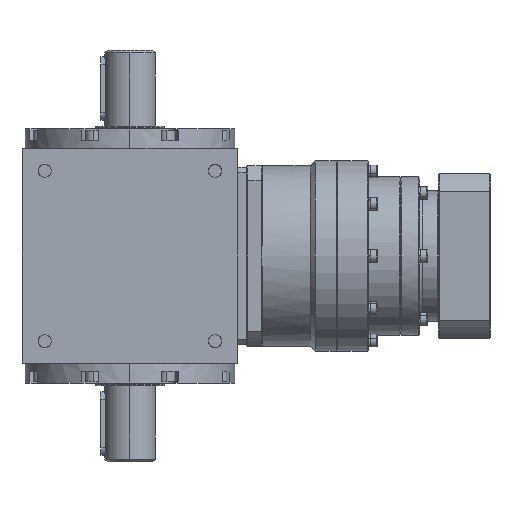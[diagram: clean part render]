
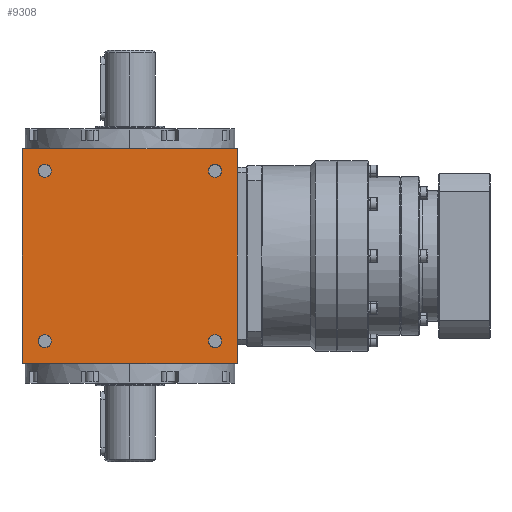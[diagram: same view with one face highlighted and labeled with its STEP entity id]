
A CAD part, left-side view. The second image highlights one B-rep face of the part: STEP entity #9308.
In plain terms, the highlighted planar face has unit normal (-1, 0, 0).
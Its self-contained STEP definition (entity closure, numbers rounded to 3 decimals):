
#465 = EDGE_CURVE ( 'NONE', #48135, #32038, #18563, .T. ) ;
#545 = EDGE_LOOP ( 'NONE', ( #1643, #24327 ) ) ;
#1643 = ORIENTED_EDGE ( 'NONE', *, *, #34196, .T. ) ;
#1875 = CARTESIAN_POINT ( 'NONE',  ( -85., 67., 61.9 ) ) ;
#3090 = DIRECTION ( 'NONE',  ( 0., 0., 1. ) ) ;
#3372 = LINE ( 'NONE', #45760, #16991 ) ;
#3641 = FACE_BOUND ( 'NONE', #21216, .T. ) ;
#4065 = CIRCLE ( 'NONE', #37555, 5.1 ) ;
#4308 = AXIS2_PLACEMENT_3D ( 'NONE', #9619, #16704, #12769 ) ;
#5265 = CARTESIAN_POINT ( 'NONE',  ( -85., -67., 72.1 ) ) ;
#5530 = VECTOR ( 'NONE', #14328, 1000. ) ;
#6942 = EDGE_CURVE ( 'NONE', #12817, #26942, #45713, .T. ) ;
#7052 = FACE_BOUND ( 'NONE', #545, .T. ) ;
#7145 = VERTEX_POINT ( 'NONE', #39131 ) ;
#7190 = CARTESIAN_POINT ( 'NONE',  ( -85., 67., 72.1 ) ) ;
#7510 = VERTEX_POINT ( 'NONE', #27154 ) ;
#8971 = VECTOR ( 'NONE', #34373, 1000. ) ;
#9308 = ADVANCED_FACE ( 'NONE', ( #40444, #25371, #7052, #21936, #3641 ), #36791, .T. ) ;
#9619 = CARTESIAN_POINT ( 'NONE',  ( -85., -67., 67. ) ) ;
#10342 = AXIS2_PLACEMENT_3D ( 'NONE', #15931, #26665, #12012 ) ;
#10415 = EDGE_CURVE ( 'NONE', #45732, #7145, #46692, .T. ) ;
#11060 = VECTOR ( 'NONE', #29466, 1000. ) ;
#11374 = CARTESIAN_POINT ( 'NONE',  ( -85., -84.5, -84.5 ) ) ;
#11806 = CARTESIAN_POINT ( 'NONE',  ( -85., 67., -72.1 ) ) ;
#12012 = DIRECTION ( 'NONE',  ( 0., 0., 1. ) ) ;
#12095 = EDGE_CURVE ( 'NONE', #28531, #23396, #23325, .T. ) ;
#12769 = DIRECTION ( 'NONE',  ( 0., 0., 1. ) ) ;
#12817 = VERTEX_POINT ( 'NONE', #7190 ) ;
#13135 = CARTESIAN_POINT ( 'NONE',  ( -85., -67., 61.9 ) ) ;
#14328 = DIRECTION ( 'NONE',  ( 0., 0., -1. ) ) ;
#14441 = CIRCLE ( 'NONE', #4308, 5.1 ) ;
#15244 = ORIENTED_EDGE ( 'NONE', *, *, #43886, .T. ) ;
#15337 = CARTESIAN_POINT ( 'NONE',  ( -85., 85., -84.5 ) ) ;
#15562 = ORIENTED_EDGE ( 'NONE', *, *, #31673, .T. ) ;
#15931 = CARTESIAN_POINT ( 'NONE',  ( -85., 67., 67. ) ) ;
#16704 = DIRECTION ( 'NONE',  ( 1., 0., 0. ) ) ;
#16991 = VECTOR ( 'NONE', #37989, 1000. ) ;
#18354 = DIRECTION ( 'NONE',  ( 1., 0., 0. ) ) ;
#18365 = CARTESIAN_POINT ( 'NONE',  ( -85., 84.5, 84.5 ) ) ;
#18473 = CARTESIAN_POINT ( 'NONE',  ( -85., 67., 67. ) ) ;
#18563 = LINE ( 'NONE', #41430, #8971 ) ;
#20071 = AXIS2_PLACEMENT_3D ( 'NONE', #18473, #29425, #37690 ) ;
#20212 = ORIENTED_EDGE ( 'NONE', *, *, #24696, .T. ) ;
#20646 = VERTEX_POINT ( 'NONE', #45647 ) ;
#21216 = EDGE_LOOP ( 'NONE', ( #36581, #15244 ) ) ;
#21410 = CARTESIAN_POINT ( 'NONE',  ( -85., -67., -67. ) ) ;
#21794 = AXIS2_PLACEMENT_3D ( 'NONE', #46868, #25437, #24732 ) ;
#21936 = FACE_BOUND ( 'NONE', #33593, .T. ) ;
#22141 = AXIS2_PLACEMENT_3D ( 'NONE', #40733, #18354, #40274 ) ;
#22305 = EDGE_CURVE ( 'NONE', #32038, #43561, #32877, .T. ) ;
#22668 = DIRECTION ( 'NONE',  ( 1., 0., 0. ) ) ;
#23325 = CIRCLE ( 'NONE', #39664, 5.1 ) ;
#23363 = ORIENTED_EDGE ( 'NONE', *, *, #43084, .T. ) ;
#23396 = VERTEX_POINT ( 'NONE', #13135 ) ;
#24327 = ORIENTED_EDGE ( 'NONE', *, *, #10415, .T. ) ;
#24696 = EDGE_CURVE ( 'NONE', #28229, #48135, #3372, .T. ) ;
#24732 = DIRECTION ( 'NONE',  ( 0., 0., 1. ) ) ;
#25371 = FACE_BOUND ( 'NONE', #35288, .T. ) ;
#25437 = DIRECTION ( 'NONE',  ( 1., 0., 0. ) ) ;
#25552 = DIRECTION ( 'NONE',  ( 1., 0., 0. ) ) ;
#25826 = CARTESIAN_POINT ( 'NONE',  ( -85., -84.5, 84.5 ) ) ;
#26057 = LINE ( 'NONE', #15337, #11060 ) ;
#26665 = DIRECTION ( 'NONE',  ( 1., 0., 0. ) ) ;
#26942 = VERTEX_POINT ( 'NONE', #1875 ) ;
#27154 = CARTESIAN_POINT ( 'NONE',  ( -85., -67., -72.1 ) ) ;
#27198 = CARTESIAN_POINT ( 'NONE',  ( -85., 84.5, -84.5 ) ) ;
#28115 = AXIS2_PLACEMENT_3D ( 'NONE', #21410, #25552, #3090 ) ;
#28229 = VERTEX_POINT ( 'NONE', #11374 ) ;
#28531 = VERTEX_POINT ( 'NONE', #5265 ) ;
#29425 = DIRECTION ( 'NONE',  ( 1., 0., 0. ) ) ;
#29436 = DIRECTION ( 'NONE',  ( 0., 0., 1. ) ) ;
#29466 = DIRECTION ( 'NONE',  ( 0., -1., 0. ) ) ;
#29970 = CARTESIAN_POINT ( 'NONE',  ( -85., 85., -85. ) ) ;
#31353 = CIRCLE ( 'NONE', #10342, 5.1 ) ;
#31643 = ORIENTED_EDGE ( 'NONE', *, *, #12095, .T. ) ;
#31673 = EDGE_CURVE ( 'NONE', #20646, #7510, #45190, .T. ) ;
#31917 = AXIS2_PLACEMENT_3D ( 'NONE', #29970, #44817, #40215 ) ;
#32038 = VERTEX_POINT ( 'NONE', #18365 ) ;
#32623 = DIRECTION ( 'NONE',  ( 1., 0., 0. ) ) ;
#32842 = EDGE_LOOP ( 'NONE', ( #20212, #43587, #42652, #23363 ) ) ;
#32877 = LINE ( 'NONE', #47738, #5530 ) ;
#33163 = DIRECTION ( 'NONE',  ( 0., 0., 1. ) ) ;
#33593 = EDGE_LOOP ( 'NONE', ( #15562, #34937 ) ) ;
#34196 = EDGE_CURVE ( 'NONE', #7145, #45732, #4065, .T. ) ;
#34311 = ORIENTED_EDGE ( 'NONE', *, *, #45934, .T. ) ;
#34373 = DIRECTION ( 'NONE',  ( 0., 1., 0. ) ) ;
#34937 = ORIENTED_EDGE ( 'NONE', *, *, #45264, .T. ) ;
#35288 = EDGE_LOOP ( 'NONE', ( #31643, #34311 ) ) ;
#36502 = CARTESIAN_POINT ( 'NONE',  ( -85., 67., -67. ) ) ;
#36581 = ORIENTED_EDGE ( 'NONE', *, *, #6942, .T. ) ;
#36791 = PLANE ( 'NONE',  #31917 ) ;
#37555 = AXIS2_PLACEMENT_3D ( 'NONE', #36502, #32623, #29436 ) ;
#37690 = DIRECTION ( 'NONE',  ( 0., 0., 1. ) ) ;
#37989 = DIRECTION ( 'NONE',  ( 0., 0., 1. ) ) ;
#39131 = CARTESIAN_POINT ( 'NONE',  ( -85., 67., -61.9 ) ) ;
#39664 = AXIS2_PLACEMENT_3D ( 'NONE', #44336, #22668, #33163 ) ;
#40215 = DIRECTION ( 'NONE',  ( 0., -1., 0. ) ) ;
#40274 = DIRECTION ( 'NONE',  ( 0., 0., 1. ) ) ;
#40444 = FACE_OUTER_BOUND ( 'NONE', #32842, .T. ) ;
#40733 = CARTESIAN_POINT ( 'NONE',  ( -85., -67., -67. ) ) ;
#41430 = CARTESIAN_POINT ( 'NONE',  ( -85., 85., 84.5 ) ) ;
#42652 = ORIENTED_EDGE ( 'NONE', *, *, #22305, .T. ) ;
#43084 = EDGE_CURVE ( 'NONE', #43561, #28229, #26057, .T. ) ;
#43561 = VERTEX_POINT ( 'NONE', #27198 ) ;
#43587 = ORIENTED_EDGE ( 'NONE', *, *, #465, .T. ) ;
#43886 = EDGE_CURVE ( 'NONE', #26942, #12817, #31353, .T. ) ;
#44336 = CARTESIAN_POINT ( 'NONE',  ( -85., -67., 67. ) ) ;
#44817 = DIRECTION ( 'NONE',  ( -1., 0., 0. ) ) ;
#45190 = CIRCLE ( 'NONE', #28115, 5.1 ) ;
#45264 = EDGE_CURVE ( 'NONE', #7510, #20646, #46265, .T. ) ;
#45647 = CARTESIAN_POINT ( 'NONE',  ( -85., -67., -61.9 ) ) ;
#45713 = CIRCLE ( 'NONE', #20071, 5.1 ) ;
#45732 = VERTEX_POINT ( 'NONE', #11806 ) ;
#45760 = CARTESIAN_POINT ( 'NONE',  ( -85., -84.5, -85. ) ) ;
#45934 = EDGE_CURVE ( 'NONE', #23396, #28531, #14441, .T. ) ;
#46265 = CIRCLE ( 'NONE', #22141, 5.1 ) ;
#46692 = CIRCLE ( 'NONE', #21794, 5.1 ) ;
#46868 = CARTESIAN_POINT ( 'NONE',  ( -85., 67., -67. ) ) ;
#47738 = CARTESIAN_POINT ( 'NONE',  ( -85., 84.5, -85. ) ) ;
#48135 = VERTEX_POINT ( 'NONE', #25826 ) ;
